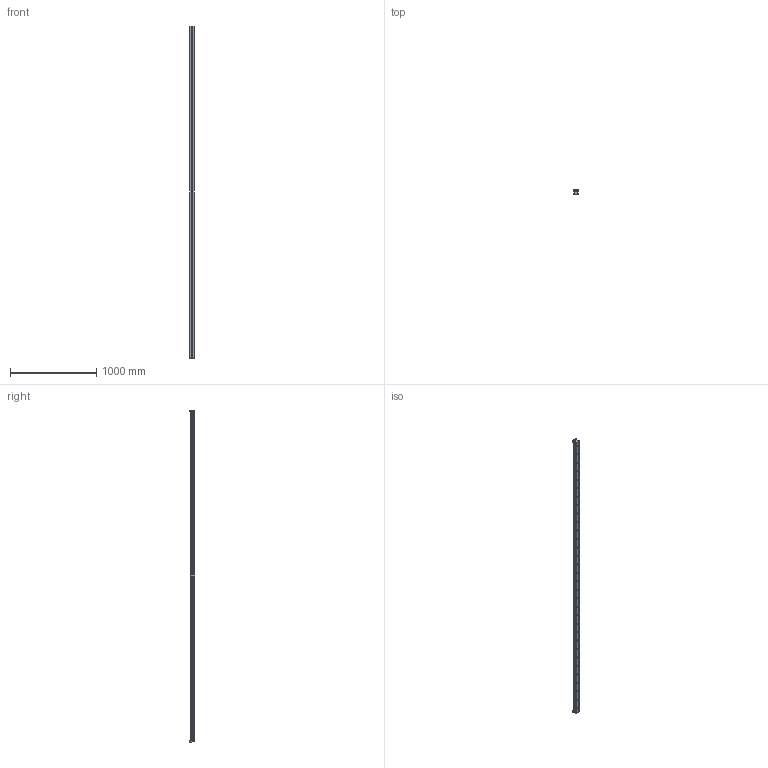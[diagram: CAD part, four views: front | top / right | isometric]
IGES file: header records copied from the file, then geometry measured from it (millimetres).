
Start section: 3D InterOp IGES (v. 2019 1.0.2), Spatial Corp. Copyright (c) 1999-2017.
Global section: file name: R1605.3_size55.igs; native system: Spatial Corp.; preprocessor: 3D InterOp GENERIC/IGES 3.0; author: Noname; organization: Noname; date: 20220629.163438; units: millimetre
Bounding box: 61.34 x 61.85 x 3842.3 mm (x, y, z)
Surface area: 1279510.4 mm2 (no closed solid volume)
Topology: 0 solids, 0 shells, 494 faces, 2516 edges, 2512 vertices
Faces by surface type: revolution 264, extrusion 230
